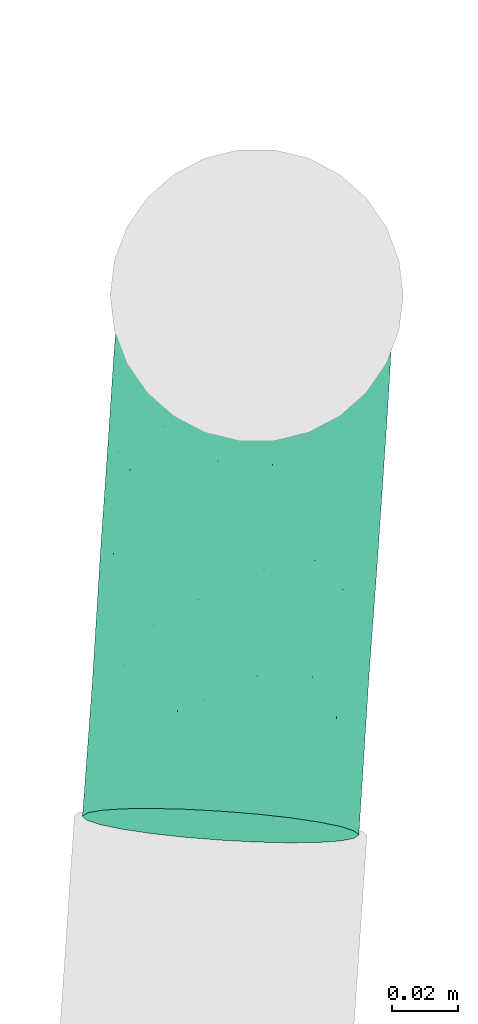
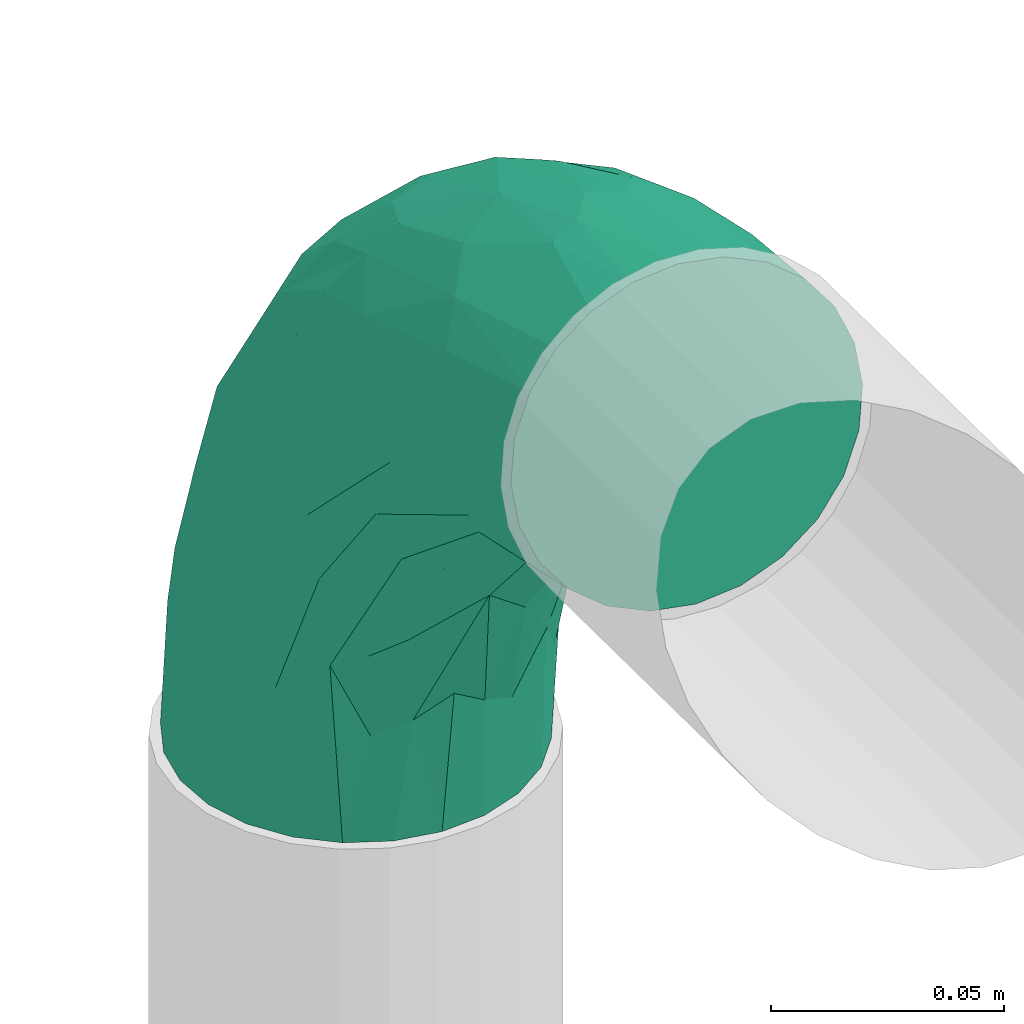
# One storey, part 24 of 57: 1 flow fitting.
"""IFC2X3 building model written with IfcOpenShell, lengths in millimetres."""

from ifc_helpers import new_model, entity, si_unit, converted_unit, direction, frame, origin, place, context, subcontext, project, spatial, faceted_brep, source, transform, mapped, material, type_object, type_shapes, element, save


model = new_model("IFC2X3")

# Units and contexts
model_context = context("Model", 3, precision=0.01, world=origin(), true_north=direction((6.123233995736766e-17, 1.0)))
plan_context = context("Plan", 3, precision=0.01, world=origin(), true_north=direction((6.123233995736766e-17, 1.0)))
body_context = subcontext(model_context, "Body", "Model", "MODEL_VIEW")
ifc_project = project(units=[si_unit("LENGTHUNIT", "METRE", prefix="MILLI"), converted_unit("PLANEANGLEUNIT", "DEGREE", entity("IfcPlaneAngleMeasure", 0.017453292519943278), si_unit("PLANEANGLEUNIT", "RADIAN"), dimensions=[0, 0, 0, 0, 0, 0, 0]), si_unit("AREAUNIT", "SQUARE_METRE")], contexts=[model_context, plan_context])

# Site, building, storey
site_placement = place(None, origin())
site = spatial("IfcSite", under=ifc_project, at=site_placement, Name="Default", CompositionType="ELEMENT")
building_placement = place(site_placement, origin())
building = spatial("IfcBuilding", under=site, at=building_placement, CompositionType="ELEMENT")
storey_placement = place(building_placement, frame((0.0, 0.0, 12811.000000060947)))
storey = spatial("IfcBuildingStorey", under=building, at=storey_placement, Name="5K", CompositionType="ELEMENT", Elevation=12811.000000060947)

# Flow fitting
ifc_material = material(Name="<Unnamed>")
pipe_fitting_type = type_object("IfcPipeFittingType", Name="Elbow - Welded - SS:D+100", PredefinedType="NOTDEFINED", material=ifc_material)
shared_shape = source(origin(), body_context, "Body", "Brep", [
    faceted_brep([(-162.07272797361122, 21.0, -36.3730669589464), (-162.07272797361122, 10.870399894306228, -40.568884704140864), (-162.07272797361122, 0.0, -42.0), (-162.07272797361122, -10.870399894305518, -40.56888470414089), (-162.07272797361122, -21.0, -36.37306695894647), (-162.07272797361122, -29.698484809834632, -29.698484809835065), (-162.07272797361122, -36.373066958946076, -21.0), (-162.07272797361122, -40.56888470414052, -10.870399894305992), (-162.07272797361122, -42.0, 0.0), (-162.07272797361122, -40.568884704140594, 10.870399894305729), (-162.07272797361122, -36.37306695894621, 21.0), (-162.07272797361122, -29.698484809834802, 29.698484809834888), (-162.07272797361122, -21.0, 36.37306695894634), (-162.07272797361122, -10.870399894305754, 40.56888470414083), (-162.07272797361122, 0.0, 42.0), (-162.07272797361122, 10.870399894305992, 40.56888470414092), (-162.07272797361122, 21.0, 36.37306695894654), (-162.07272797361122, 29.69848480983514, 29.69848480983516), (-162.07272797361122, 36.3730669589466, 21.0), (-162.07272797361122, 40.5688847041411, 10.870399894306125), (-162.07272797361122, 42.0, 0.0), (-162.07272797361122, 40.56888470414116, -10.870399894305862), (-162.07272797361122, 36.37306695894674, -21.0), (-162.07272797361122, 29.69848480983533, -29.698484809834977), (16.941213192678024, 161.184876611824, -42.0), (6.1303624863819, 162.3211428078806, -40.568884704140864), (-3.9437466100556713, 163.37997434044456, -36.3730669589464), (-12.594580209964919, 164.28921359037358, -29.698484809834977), (-19.232598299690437, 164.98689740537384, -21.0), (-23.405430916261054, 165.42547978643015, -10.870399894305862), (-24.828706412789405, 165.5750720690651, 0.0), (-23.405430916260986, 165.42547978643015, 10.870399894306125), (-19.232598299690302, 164.98689740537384, 21.0), (-12.594580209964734, 164.28921359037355, 29.69848480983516), (-3.9437466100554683, 163.37997434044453, 36.37306695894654), (6.130362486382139, 162.32114280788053, 40.56888470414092), (16.941213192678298, 161.18487661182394, 42.0), (27.752063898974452, 160.0486104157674, 40.56888470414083), (37.82617299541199, 158.9897788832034, 36.37306695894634), (46.47700659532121, 158.08053963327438, 29.698484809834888), (53.11502468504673, 157.3828558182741, 21.0), (57.28785730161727, 156.94427343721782, 10.870399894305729), (58.71113279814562, 156.79468115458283, 0.0), (57.28785730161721, 156.94427343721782, -10.870399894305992), (53.11502468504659, 157.38285581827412, -21.0), (46.477006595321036, 158.0805396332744, -29.698484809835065), (37.82617299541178, 158.9897788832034, -36.37306695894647), (27.752063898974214, 160.04861041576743, -40.56888470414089), (-110.56733650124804, 41.731487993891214, 26.66447147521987), (-96.97531827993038, -30.588546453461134, 11.409689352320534), (-115.91633261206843, -37.14876736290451, 0.0), (-71.77719321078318, -22.807091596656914, 0.0), (-117.65635294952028, -21.580303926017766, 32.65289887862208), (-67.02680210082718, -6.717553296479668, 29.879340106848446), (-81.44922119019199, -0.7545087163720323, 37.985157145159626), (-31.584401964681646, 0.39822724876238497, 0.0), (-52.46885327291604, -12.10830557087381, 8.28109867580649), (-128.5507731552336, -38.74077397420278, 7.665883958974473), (-121.4654040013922, 30.102435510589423, 33.96958931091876), (-105.50169997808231, -26.534581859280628, 24.460598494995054), (-14.582607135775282, 16.195626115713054, 11.409689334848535), (-55.226449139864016, -10.116958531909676, 17.709233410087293), (2.905423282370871, 31.45300538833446, 0.0), (17.526463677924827, 50.91576092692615, 8.281098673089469), (30.184911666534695, 69.0, 0.0), (49.061818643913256, 111.39822724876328, 0.0), (40.55766024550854, 93.24670370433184, 11.40968933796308), (-124.48403403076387, -13.299346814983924, 38.44097240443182), (51.58924932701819, 122.57985946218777, 7.937631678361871), (21.9772933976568, 69.84574062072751, 23.9593857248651), (37.417153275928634, 102.15013170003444, 24.460598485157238), (-131.81244201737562, -36.97926915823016, 15.38887600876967), (11.316322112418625, 110.64701490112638, 41.45489639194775), (-131.22577070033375, 18.241571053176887, 39.10364315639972), (-14.8272829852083, 43.61641709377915, 36.54291873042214), (-27.094842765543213, 44.48150818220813, 40.45964027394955), (-48.287288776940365, 19.983022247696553, 38.68773764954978), (-27.61751167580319, 135.8830238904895, 16.803737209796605), (-120.66021736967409, 9.384167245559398, 41.765696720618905), (-11.559181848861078, 80.37087827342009, 41.997022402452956), (-3.935290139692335, 75.66370100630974, 40.92172074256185), (-17.24093920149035, 123.94656510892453, 33.96958931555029), (-29.9454447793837, 114.3237653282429, 26.66447148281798), (-132.25182644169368, 41.669863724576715, 16.803737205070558), (-106.03351894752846, 48.01388393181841, 20.58438754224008), (-100.01661743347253, 54.07574904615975, 13.951054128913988), (3.2796673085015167, 120.98014064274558, 41.765696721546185), (-128.17389313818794, 45.31366043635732, 8.585112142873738), (-36.6673380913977, 110.47147367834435, 20.584387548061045), (-67.6658136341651, 75.15049941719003, 15.809105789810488), (-64.57303448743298, 71.7156201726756, 24.25417203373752), (-111.22375666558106, 0.3114323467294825, 41.454896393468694), (-85.70469417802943, 65.0568687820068, 0.0), (-122.18633999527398, 47.88990934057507, 0.0), (-72.62091876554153, 53.993574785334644, 33.39511468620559), (9.264137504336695, 80.92416641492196, 37.98515713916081), (26.238616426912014, 122.41193731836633, 38.44097240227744), (-15.694391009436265, 21.185331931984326, 21.661341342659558), (-71.76037081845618, -14.55603142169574, 23.95938575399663), (13.686962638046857, 65.95744692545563, 29.87934005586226), (33.760522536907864, 114.75606312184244, 32.652898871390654), (15.834272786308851, 53.86640295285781, 17.70923340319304), (-41.30964661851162, 4.170445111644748, 25.5863793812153), (-40.40309524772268, 85.91490640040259, 32.82897046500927), (-69.29565525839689, 76.96062193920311, 7.378264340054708), (-55.74190047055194, 92.03548941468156, 0.0), (-31.667607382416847, 132.20831042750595, 8.585112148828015), (-43.32493313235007, 105.121170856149, 13.951054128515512), (-34.85561305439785, 126.52284906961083, 0.0), (-4.424813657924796, 132.41366559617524, 39.1036431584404), (-47.58448069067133, 65.05978990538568, 38.055921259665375), (-33.9023860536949, 67.89311462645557, 40.859997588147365), (-18.886781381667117, 96.7841946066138, 39.458380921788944), (-74.0404588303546, 11.972112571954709, 40.86643261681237), (-78.72233474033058, 19.89690384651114, 41.997022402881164), (-85.72543998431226, 24.853456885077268, 41.39798282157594), (-94.27979441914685, 28.90002076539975, 39.458380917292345), (-54.85152587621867, 6.971313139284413, 34.77188383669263), (-22.22424710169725, 24.682527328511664, 30.38065262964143), (-14.189052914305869, 90.2422279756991, 41.4111109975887), (-43.10767931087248, 47.87592808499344, 41.9418407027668), (-62.59305792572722, 42.38813045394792, 40.7434848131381), (-121.25875142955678, 20.210400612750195, -39.1992802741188), (-110.44262917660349, 11.91464013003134, -41.79309081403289), (-19.4287662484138, 17.822885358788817, -21.66134132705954), (5.085518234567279, 47.91842040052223, -25.925743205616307), (15.834272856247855, 53.866403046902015, -17.709233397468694), (-122.27113228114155, -2.1691353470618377, -41.49920716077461), (-118.33974329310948, 39.22490951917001, -26.495295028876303), (-93.9673993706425, 52.851472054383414, -22.027237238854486), (-86.31195071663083, 50.94742629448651, -29.029347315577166), (-133.00303818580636, 27.700793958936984, -33.78508441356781), (-97.72281546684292, 38.06499010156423, -34.3562086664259), (-113.41492077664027, -11.074257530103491, -38.32895492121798), (-128.17389413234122, 45.313660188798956, -8.585112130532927), (22.86867887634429, 111.63604668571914, -38.32895493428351), (0.029757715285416, 64.27693910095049, -37.36946677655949), (-10.002251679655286, 69.66545285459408, -41.254032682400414), (-100.01661951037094, 54.07574798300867, -13.951054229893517), (-69.29565660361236, 76.96062077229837, -7.378264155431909), (-132.2518275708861, 41.66986345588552, -16.803737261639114), (-117.98610741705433, -29.369597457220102, -24.71150713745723), (-107.92880939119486, -32.50321399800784, -14.835873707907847), (36.90798286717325, 125.92752952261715, -32.828695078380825), (26.751685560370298, 77.80659630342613, -23.655377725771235), (-78.4756907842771, 21.3156744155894, -41.99508820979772), (-82.96434562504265, 30.18505596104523, -40.64521433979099), (-48.69396816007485, 41.170315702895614, -41.99319609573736), (-119.65579642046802, -37.14444728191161, -7.909468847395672), (-14.582607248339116, 16.19562602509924, -11.40968936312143), (-55.22644961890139, -10.116958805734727, -17.709233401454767), (-81.34843167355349, -19.316929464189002, -23.15085994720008), (-52.4688534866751, -12.108305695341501, -8.281098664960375), (41.54161418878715, 114.2698082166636, -24.71150715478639), (-86.17189432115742, -27.822444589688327, -7.907135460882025), (43.60679055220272, 103.94005302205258, -14.83587372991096), (-53.37441160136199, -2.59149649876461, -26.60722543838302), (-22.224247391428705, 24.682527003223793, -30.38065258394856), (-48.44927780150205, 31.228640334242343, -41.37854983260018), (14.305097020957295, 119.33538463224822, -41.49099663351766), (-43.32493123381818, 105.12117377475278, -13.951054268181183), (-67.66581605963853, 75.15049709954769, -15.80910603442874), (-31.667607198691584, 132.20831109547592, -8.585111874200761), (-26.640160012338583, 121.79158450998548, -26.49529523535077), (-64.57303628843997, 71.71561796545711, -24.25417264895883), (-13.646443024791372, 135.16995454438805, -33.78508444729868), (-31.463170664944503, 36.299900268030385, -39.531382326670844), (-7.723719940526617, 121.84331767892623, -39.207809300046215), (-1.9333185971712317, 107.11715426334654, -41.80376289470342), (-20.73882569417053, 71.33342871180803, -41.964758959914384), (-50.40386396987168, 55.979161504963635, -39.90032698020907), (-22.036099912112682, 85.40848497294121, -40.531375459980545), (-27.64165095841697, 101.1663534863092, -34.35620870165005), (-89.12329936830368, -13.687298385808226, -32.196958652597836), (-129.09562019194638, -23.54278596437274, -32.82869506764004), (17.52646370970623, 50.915760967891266, -8.281098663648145), (36.677446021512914, 82.79159830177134, -7.907135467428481), (-62.684604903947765, 7.529601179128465, -37.42722822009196), (-60.46297514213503, 64.72509926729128, -32.71777436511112), (-75.96840255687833, 42.875482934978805, -37.907810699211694), (49.44840266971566, 115.11765758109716, -7.909468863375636), (-27.617510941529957, 135.88302595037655, -16.803737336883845), (-53.51448545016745, 62.550865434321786, -36.89707501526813), (-42.9764425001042, 98.69910921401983, -21.96337418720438), (-42.75860684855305, 89.81366830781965, -28.942336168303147), (-78.05908230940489, 12.25152735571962, -41.304654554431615), (22.928239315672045, 87.20436013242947, -32.19695867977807), (-52.63684415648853, 5.0819286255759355, -32.72110060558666), (1.822865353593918, 53.76319127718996, -32.2754437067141), (-29.96013532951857, 27.10919935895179, -35.738457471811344)], [[[0, 1, 2, 3, 4, 5, 6, 7, 8, 9, 10, 11, 12, 13, 14, 15, 16, 17, 18, 19, 20, 21, 22, 23]], [[24, 25, 26, 27, 28, 29, 30, 31, 32, 33, 34, 35, 36, 37, 38, 39, 40, 41, 42, 43, 44, 45, 46, 47]], [[18, 17, 48]], [[49, 50, 51]], [[52, 53, 54]], [[51, 55, 56]], [[57, 8, 50]], [[48, 17, 58]], [[10, 59, 11]], [[56, 60, 61]], [[60, 62, 63]], [[51, 56, 49]], [[11, 59, 52]], [[64, 65, 66]], [[13, 12, 67]], [[68, 66, 65]], [[69, 66, 70]], [[49, 71, 57]], [[72, 37, 36]], [[15, 73, 16]], [[74, 75, 76]], [[77, 32, 31]], [[15, 14, 78]], [[79, 80, 72]], [[81, 33, 82]], [[83, 84, 85]], [[72, 36, 86]], [[20, 19, 87]], [[88, 89, 90]], [[67, 91, 13]], [[87, 92, 93]], [[90, 48, 94]], [[14, 91, 78]], [[13, 91, 14]], [[55, 62, 60]], [[70, 40, 39]], [[72, 95, 96]], [[59, 10, 71]], [[60, 97, 61]], [[66, 68, 40]], [[98, 49, 61]], [[99, 69, 70]], [[100, 39, 38]], [[66, 40, 70]], [[9, 71, 10]], [[63, 66, 101]], [[102, 53, 98]], [[90, 94, 103]], [[11, 52, 12]], [[41, 68, 42]], [[70, 100, 99]], [[82, 32, 77]], [[92, 104, 105]], [[106, 105, 107]], [[38, 37, 96]], [[108, 106, 30]], [[48, 58, 94]], [[70, 39, 100]], [[17, 16, 58]], [[79, 72, 86]], [[85, 89, 104]], [[32, 82, 33]], [[19, 83, 87]], [[106, 107, 77]], [[18, 83, 19]], [[81, 34, 33]], [[109, 35, 34]], [[90, 82, 88]], [[90, 89, 84]], [[62, 64, 63]], [[97, 60, 101]], [[110, 111, 112]], [[36, 35, 86]], [[79, 75, 80]], [[91, 113, 114]], [[115, 78, 114]], [[73, 58, 16]], [[58, 116, 94]], [[112, 103, 110]], [[112, 81, 103]], [[103, 81, 82]], [[109, 81, 112]], [[53, 52, 59]], [[67, 52, 54]], [[98, 53, 59]], [[117, 76, 54]], [[96, 100, 38]], [[95, 74, 99]], [[95, 99, 100]], [[99, 118, 97]], [[109, 86, 35]], [[111, 79, 119]], [[114, 78, 91]], [[73, 78, 116]], [[90, 103, 82]], [[103, 94, 110]], [[111, 119, 112]], [[79, 120, 75]], [[120, 114, 113]], [[75, 113, 76]], [[91, 54, 113]], [[120, 121, 115]], [[94, 116, 110]], [[111, 121, 120]], [[60, 56, 55]], [[49, 56, 61]], [[66, 63, 64]], [[60, 63, 101]], [[72, 96, 37]], [[100, 96, 95]], [[52, 67, 12]], [[91, 67, 54]], [[97, 101, 69]], [[118, 53, 102]], [[76, 113, 54]], [[120, 113, 75]], [[117, 54, 53]], [[75, 74, 95]], [[117, 74, 76]], [[99, 74, 118]], [[53, 118, 117]], [[74, 117, 118]], [[81, 109, 34]], [[109, 112, 119]], [[78, 73, 15]], [[58, 73, 116]], [[106, 77, 31]], [[88, 77, 107]], [[30, 106, 31]], [[105, 106, 108]], [[48, 83, 18]], [[87, 83, 85]], [[92, 87, 85]], [[20, 87, 93]], [[88, 107, 89]], [[82, 77, 88]], [[83, 48, 84]], [[90, 84, 48]], [[75, 95, 80]], [[95, 72, 80]], [[121, 110, 116]], [[79, 111, 120]], [[110, 121, 111]], [[115, 121, 116]], [[79, 86, 119]], [[109, 119, 86]], [[78, 115, 116]], [[120, 115, 114]], [[107, 105, 104]], [[84, 89, 85]], [[85, 104, 92]], [[107, 104, 89]], [[57, 71, 9]], [[59, 71, 49]], [[8, 57, 9]], [[49, 57, 50]], [[42, 68, 65]], [[40, 68, 41]], [[49, 98, 59]], [[102, 61, 97]], [[61, 102, 98]], [[118, 102, 97]], [[97, 69, 99]], [[66, 69, 101]], [[1, 122, 123]], [[124, 125, 126]], [[127, 3, 2]], [[128, 129, 130]], [[131, 128, 132]], [[4, 3, 133]], [[93, 134, 20]], [[135, 136, 137]], [[138, 134, 92]], [[0, 23, 131]], [[105, 139, 92]], [[21, 140, 22]], [[6, 141, 142]], [[46, 143, 135]], [[126, 125, 144]], [[145, 127, 123]], [[6, 142, 7]], [[146, 147, 145]], [[8, 7, 148]], [[124, 149, 150]], [[151, 142, 141]], [[152, 149, 55]], [[45, 44, 153]], [[152, 154, 150]], [[43, 155, 44]], [[154, 148, 142]], [[124, 126, 149]], [[156, 157, 124]], [[158, 145, 147]], [[51, 152, 55]], [[1, 0, 122]], [[135, 159, 47]], [[139, 160, 161]], [[6, 5, 141]], [[30, 29, 162]], [[122, 146, 123]], [[163, 28, 27]], [[164, 129, 161]], [[27, 165, 163]], [[137, 136, 166]], [[167, 25, 168]], [[2, 1, 123]], [[24, 47, 159]], [[44, 155, 153]], [[169, 147, 170]], [[25, 167, 26]], [[148, 154, 50]], [[165, 27, 26]], [[171, 172, 167]], [[24, 168, 25]], [[62, 55, 149]], [[47, 46, 135]], [[173, 174, 133]], [[175, 176, 64]], [[46, 45, 143]], [[133, 177, 173]], [[62, 175, 64]], [[132, 178, 179]], [[65, 180, 42]], [[28, 181, 29]], [[29, 181, 162]], [[176, 65, 64]], [[128, 23, 22]], [[149, 126, 175]], [[179, 178, 182]], [[5, 4, 174]], [[183, 184, 164]], [[105, 108, 162]], [[176, 180, 65]], [[134, 138, 140]], [[127, 133, 3]], [[177, 133, 185]], [[136, 135, 186]], [[159, 137, 168]], [[140, 128, 22]], [[129, 138, 161]], [[172, 178, 184]], [[163, 183, 181]], [[171, 167, 168]], [[165, 167, 172]], [[144, 155, 126]], [[143, 153, 186]], [[174, 141, 5]], [[173, 156, 151]], [[131, 122, 0]], [[146, 179, 170]], [[137, 159, 135]], [[168, 24, 159]], [[145, 158, 185]], [[156, 187, 157]], [[123, 127, 2]], [[133, 127, 185]], [[125, 188, 186]], [[157, 187, 189]], [[149, 175, 62]], [[176, 126, 155]], [[154, 152, 51]], [[149, 152, 150]], [[179, 122, 132]], [[146, 170, 147]], [[170, 171, 169]], [[158, 137, 166]], [[136, 188, 189]], [[158, 177, 185]], [[156, 124, 150]], [[124, 157, 125]], [[151, 156, 150]], [[187, 173, 177]], [[188, 125, 157]], [[144, 186, 153]], [[189, 188, 157]], [[136, 186, 188]], [[186, 144, 125]], [[155, 144, 153]], [[171, 168, 169]], [[171, 170, 182]], [[168, 137, 169]], [[137, 147, 169]], [[126, 176, 175]], [[176, 155, 180]], [[155, 43, 180]], [[42, 180, 43]], [[50, 154, 51]], [[150, 154, 142]], [[8, 148, 50]], [[7, 142, 148]], [[133, 174, 4]], [[141, 174, 173]], [[153, 143, 45]], [[135, 143, 186]], [[134, 140, 21]], [[140, 138, 129]], [[20, 134, 21]], [[92, 134, 93]], [[163, 181, 28]], [[162, 181, 160]], [[105, 162, 160]], [[30, 162, 108]], [[122, 179, 146]], [[130, 132, 128]], [[184, 178, 164]], [[179, 182, 170]], [[178, 172, 182]], [[171, 182, 172]], [[173, 187, 156]], [[189, 177, 166]], [[177, 189, 187]], [[136, 189, 166]], [[128, 131, 23]], [[122, 131, 132]], [[167, 165, 26]], [[163, 165, 172]], [[142, 151, 150]], [[173, 151, 141]], [[164, 161, 183]], [[172, 184, 163]], [[181, 183, 160]], [[163, 184, 183]], [[138, 92, 139]], [[183, 161, 160]], [[160, 139, 105]], [[138, 139, 161]], [[130, 164, 178]], [[140, 129, 128]], [[164, 130, 129]], [[132, 130, 178]], [[127, 145, 185]], [[146, 145, 123]], [[137, 158, 147]], [[177, 158, 166]]]),
])
type_shapes(pipe_fitting_type, [shared_shape])
flow_fitting_placement = place(storey_placement, frame((-3355.011035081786, 10936.414332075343, -10517.158530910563), z_axis=(-0.9977016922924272, 0.06775937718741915, 0.0), x_axis=(0.06738818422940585, 0.9922361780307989, -0.10452846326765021)))
element("IfcFlowFitting", 1, at=flow_fitting_placement, inside=storey, type_object=pipe_fitting_type, material=ifc_material, Name="Elbow - Welded - SS:D+100", ObjectType="Elbow - Welded - SS:D+100", context=body_context, shape_type="MappedRepresentation", body=[
    mapped(shared_shape, transform((0.0, 0.0, 0.0), scale=1.0)),
])

save(model, "model.ifc")
